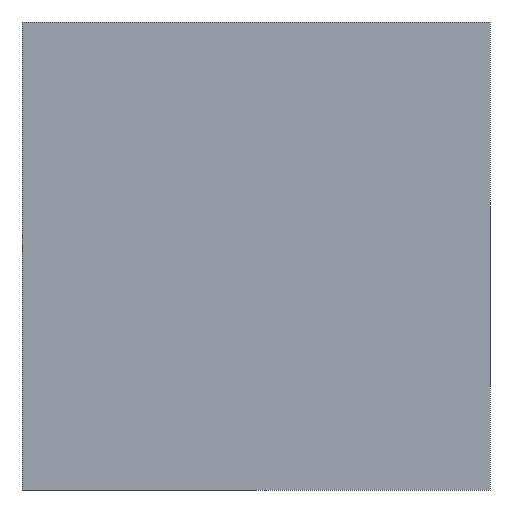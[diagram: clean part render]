
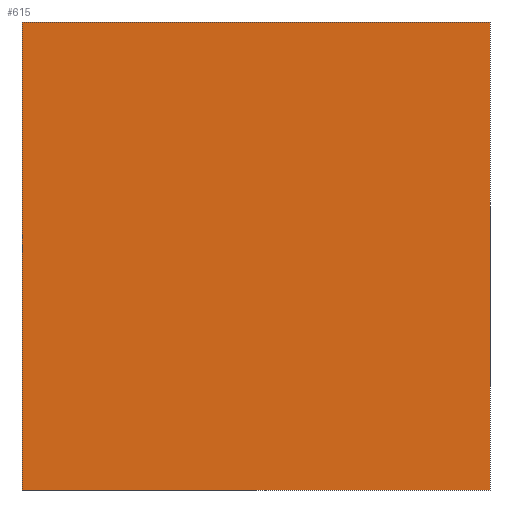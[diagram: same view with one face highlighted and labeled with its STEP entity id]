
A CAD part, left-side view. The second image highlights one B-rep face of the part: STEP entity #615.
In plain terms, the highlighted planar face has unit normal (-1, 0, 0).
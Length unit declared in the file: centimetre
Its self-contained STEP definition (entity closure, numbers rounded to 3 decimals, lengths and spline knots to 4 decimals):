
#87 = CARTESIAN_POINT ( 'NONE',  ( 0., 1000., 1000. ) ) ;
#111 = DIRECTION ( 'NONE',  ( 0., 0., -1. ) ) ;
#133 = DIRECTION ( 'NONE',  ( 0., -1., 0. ) ) ;
#153 = FACE_OUTER_BOUND ( 'NONE', #700, .T. ) ;
#157 = VERTEX_POINT ( 'NONE', #612 ) ;
#160 = LINE ( 'NONE', #87, #425 ) ;
#193 = EDGE_CURVE ( 'NONE', #287, #430, #617, .T. ) ;
#197 = VECTOR ( 'NONE', #508, 100. ) ;
#203 = CARTESIAN_POINT ( 'NONE',  ( 0., 1000., 1000. ) ) ;
#219 = VERTEX_POINT ( 'NONE', #203 ) ;
#266 = CARTESIAN_POINT ( 'NONE',  ( 0., 1000., 1000. ) ) ;
#277 = LINE ( 'NONE', #266, #197 ) ;
#287 = VERTEX_POINT ( 'NONE', #378 ) ;
#307 = LINE ( 'NONE', #658, #679 ) ;
#358 = EDGE_CURVE ( 'NONE', #219, #157, #277, .T. ) ;
#378 = CARTESIAN_POINT ( 'NONE',  ( 0., 1000., 0. ) ) ;
#397 = PLANE ( 'NONE',  #755 ) ;
#411 = ORIENTED_EDGE ( 'NONE', *, *, #718, .F. ) ;
#425 = VECTOR ( 'NONE', #576, 100. ) ;
#430 = VERTEX_POINT ( 'NONE', #561 ) ;
#474 = ORIENTED_EDGE ( 'NONE', *, *, #193, .T. ) ;
#508 = DIRECTION ( 'NONE',  ( 0., -1., 0. ) ) ;
#518 = EDGE_CURVE ( 'NONE', #219, #287, #160, .T. ) ;
#527 = ORIENTED_EDGE ( 'NONE', *, *, #358, .F. ) ;
#531 = DIRECTION ( 'NONE',  ( 0., 0., -1. ) ) ;
#537 = ORIENTED_EDGE ( 'NONE', *, *, #518, .T. ) ;
#557 = CARTESIAN_POINT ( 'NONE',  ( 0., 1000., 0. ) ) ;
#561 = CARTESIAN_POINT ( 'NONE',  ( 0., 0., 0. ) ) ;
#576 = DIRECTION ( 'NONE',  ( 0., 0., -1. ) ) ;
#612 = CARTESIAN_POINT ( 'NONE',  ( 0., 0., 1000. ) ) ;
#615 = ADVANCED_FACE ( 'NONE', ( #153 ), #397, .F. ) ;
#617 = LINE ( 'NONE', #557, #769 ) ;
#646 = DIRECTION ( 'NONE',  ( 1., 0., 0. ) ) ;
#658 = CARTESIAN_POINT ( 'NONE',  ( 0., 0., 1000. ) ) ;
#679 = VECTOR ( 'NONE', #111, 100. ) ;
#700 = EDGE_LOOP ( 'NONE', ( #474, #411, #527, #537 ) ) ;
#718 = EDGE_CURVE ( 'NONE', #157, #430, #307, .T. ) ;
#755 = AXIS2_PLACEMENT_3D ( 'NONE', #761, #646, #531 ) ;
#761 = CARTESIAN_POINT ( 'NONE',  ( 0., 1000., 1000. ) ) ;
#769 = VECTOR ( 'NONE', #133, 100. ) ;
